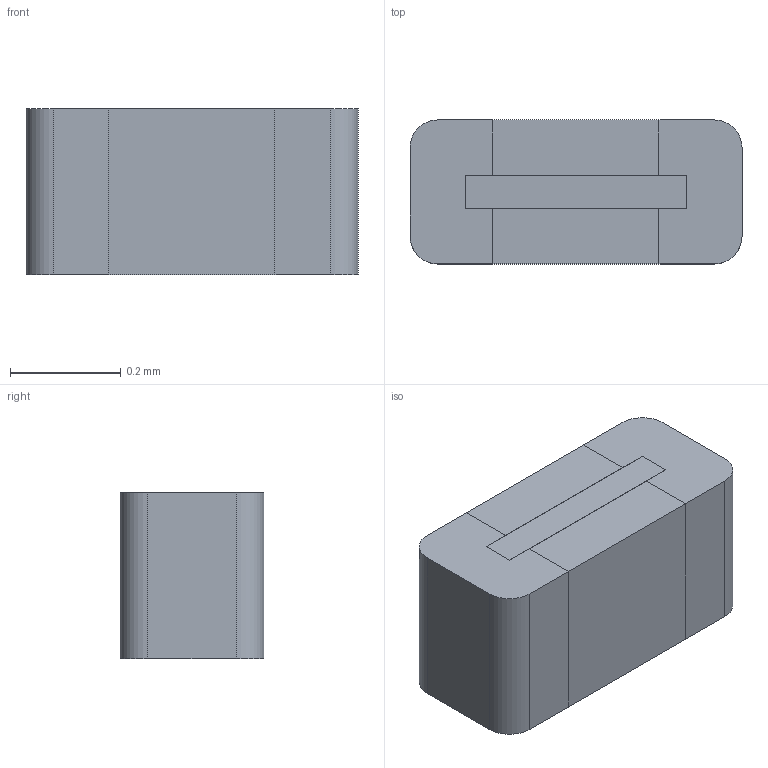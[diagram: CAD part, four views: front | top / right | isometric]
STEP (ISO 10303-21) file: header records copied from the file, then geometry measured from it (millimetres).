
FILE_DESCRIPTION (( 'STEP AP214' ), '1' );
FILE_NAME ( 'RESC0603X26.STEP', '2013-08-13T09:41:18', ( '' ), ( '' ), 'FPX Expert 2013', 'PCB Libraries', '' );
FILE_SCHEMA (( 'AUTOMOTIVE_DESIGN' ));
Length unit declared in the file: millimetre
Products named in the file (1): RESC0603X26
Bounding box: 0.6 x 0.26 x 0.3 mm (x, y, z)
Volume: 0 mm3; surface area: 1.6 mm2
Topology: 5 solids, 5 shells, 42 faces, 96 edges, 64 vertices
Faces by surface type: plane 38, cylinder 4
Entity records: 1351 total; most frequent: CARTESIAN_POINT 203, ORIENTED_EDGE 192, DIRECTION 190, EDGE_CURVE 96, VECTOR 88, LINE 88, VERTEX_POINT 64, AXIS2_PLACEMENT_3D 51
